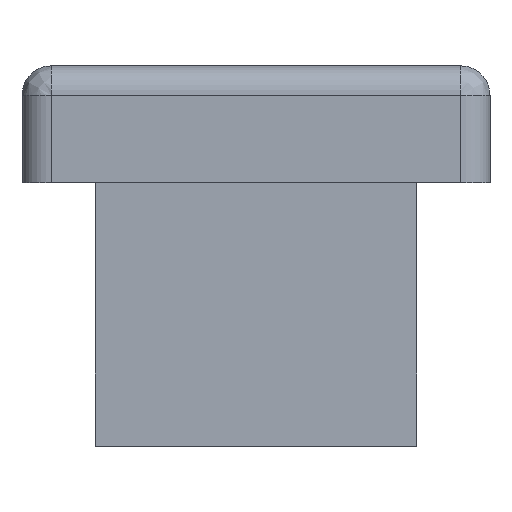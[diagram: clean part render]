
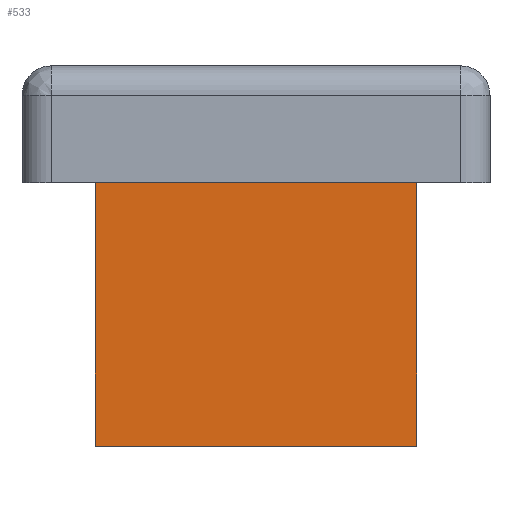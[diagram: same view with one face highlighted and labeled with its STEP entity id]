
A CAD part, front view. The second image highlights one B-rep face of the part: STEP entity #533.
In plain terms, the highlighted planar face has unit normal (0, -1, 0).
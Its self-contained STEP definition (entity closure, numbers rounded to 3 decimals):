
#47 = LINE ( 'NONE', #592, #288 ) ;
#206 = EDGE_LOOP ( 'NONE', ( #904, #1339, #367, #712 ) ) ;
#210 = CARTESIAN_POINT ( 'NONE',  ( -5.5, -77.5, 1. ) ) ;
#211 = PLANE ( 'NONE',  #500 ) ;
#233 = DIRECTION ( 'NONE',  ( 0., 0., 1. ) ) ;
#288 = VECTOR ( 'NONE', #1364, 1000. ) ;
#322 = CARTESIAN_POINT ( 'NONE',  ( -5.5, -77.5, -9. ) ) ;
#367 = ORIENTED_EDGE ( 'NONE', *, *, #953, .F. ) ;
#373 = CARTESIAN_POINT ( 'NONE',  ( 5.5, -77.5, -9. ) ) ;
#493 = DIRECTION ( 'NONE',  ( 0., 1., 0. ) ) ;
#500 = AXIS2_PLACEMENT_3D ( 'NONE', #1688, #493, #233 ) ;
#533 = ADVANCED_FACE ( 'NONE', ( #739 ), #211, .F. ) ;
#536 = VERTEX_POINT ( 'NONE', #373 ) ;
#566 = VERTEX_POINT ( 'NONE', #1166 ) ;
#592 = CARTESIAN_POINT ( 'NONE',  ( 5.5, -77.5, -9. ) ) ;
#694 = CARTESIAN_POINT ( 'NONE',  ( 5.5, -77.5, 1. ) ) ;
#712 = ORIENTED_EDGE ( 'NONE', *, *, #1152, .T. ) ;
#739 = FACE_OUTER_BOUND ( 'NONE', #206, .T. ) ;
#813 = DIRECTION ( 'NONE',  ( 0., 0., 1. ) ) ;
#904 = ORIENTED_EDGE ( 'NONE', *, *, #1546, .T. ) ;
#953 = EDGE_CURVE ( 'NONE', #536, #566, #47, .T. ) ;
#1060 = VECTOR ( 'NONE', #1286, 1000. ) ;
#1152 = EDGE_CURVE ( 'NONE', #536, #1509, #1348, .T. ) ;
#1166 = CARTESIAN_POINT ( 'NONE',  ( -5.5, -77.5, -9. ) ) ;
#1170 = VECTOR ( 'NONE', #1626, 1000. ) ;
#1187 = CARTESIAN_POINT ( 'NONE',  ( 5.5, -77.5, -9. ) ) ;
#1286 = DIRECTION ( 'NONE',  ( 0., 0., 1. ) ) ;
#1328 = VECTOR ( 'NONE', #813, 1000. ) ;
#1339 = ORIENTED_EDGE ( 'NONE', *, *, #1644, .F. ) ;
#1348 = LINE ( 'NONE', #1187, #1328 ) ;
#1353 = LINE ( 'NONE', #694, #1170 ) ;
#1364 = DIRECTION ( 'NONE',  ( -1., 0., 0. ) ) ;
#1369 = CARTESIAN_POINT ( 'NONE',  ( 5.5, -77.5, 1. ) ) ;
#1509 = VERTEX_POINT ( 'NONE', #1369 ) ;
#1520 = LINE ( 'NONE', #322, #1060 ) ;
#1546 = EDGE_CURVE ( 'NONE', #1509, #1603, #1353, .T. ) ;
#1603 = VERTEX_POINT ( 'NONE', #210 ) ;
#1626 = DIRECTION ( 'NONE',  ( -1., 0., 0. ) ) ;
#1644 = EDGE_CURVE ( 'NONE', #566, #1603, #1520, .T. ) ;
#1688 = CARTESIAN_POINT ( 'NONE',  ( 5.5, -77.5, -9. ) ) ;
